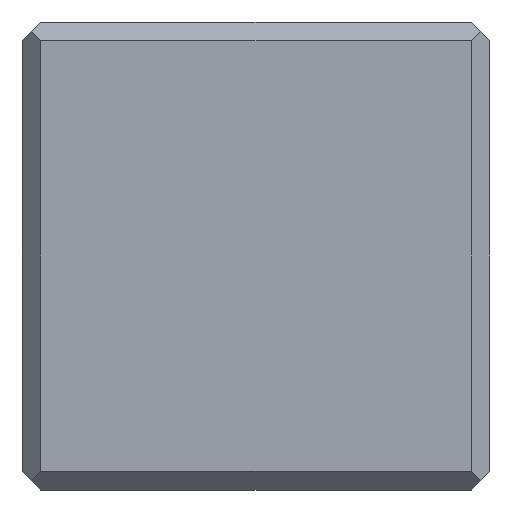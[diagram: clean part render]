
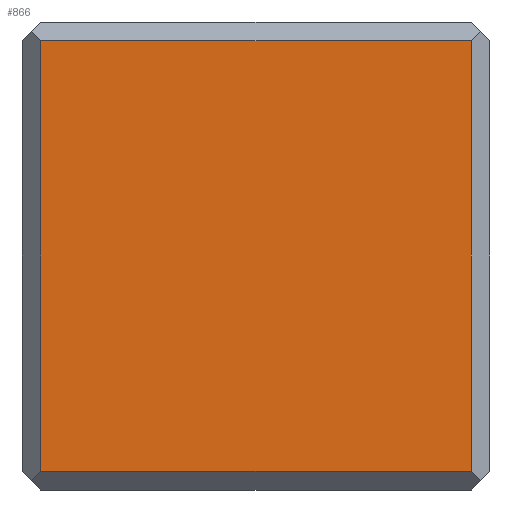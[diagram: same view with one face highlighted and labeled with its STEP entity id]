
A CAD part, front view. The second image highlights one B-rep face of the part: STEP entity #866.
In plain terms, the highlighted planar face has unit normal (0, -1, 0).
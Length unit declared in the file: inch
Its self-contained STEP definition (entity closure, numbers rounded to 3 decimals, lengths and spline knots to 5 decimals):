
#162=DIRECTION('',(-1.,0.,0.));
#163=VECTOR('',#162,0.23);
#164=CARTESIAN_POINT('',(0.115,-0.297,-0.24));
#165=LINE('',#164,#163);
#166=DIRECTION('',(0.,0.,-1.));
#167=VECTOR('',#166,0.23);
#168=CARTESIAN_POINT('',(-0.115,-0.297,-0.01));
#169=LINE('',#168,#167);
#170=DIRECTION('',(1.,0.,0.));
#171=VECTOR('',#170,0.23);
#172=CARTESIAN_POINT('',(-0.115,-0.297,-0.01));
#173=LINE('',#172,#171);
#174=DIRECTION('',(0.,0.,-1.));
#175=VECTOR('',#174,0.23);
#176=CARTESIAN_POINT('',(0.115,-0.297,-0.01));
#177=LINE('',#176,#175);
#674=CARTESIAN_POINT('',(0.115,-0.297,-0.24));
#675=CARTESIAN_POINT('',(-0.115,-0.297,-0.24));
#676=VERTEX_POINT('',#674);
#677=VERTEX_POINT('',#675);
#680=CARTESIAN_POINT('',(-0.115,-0.297,-0.01));
#681=VERTEX_POINT('',#680);
#692=CARTESIAN_POINT('',(0.115,-0.297,-0.01));
#693=VERTEX_POINT('',#692);
#852=CARTESIAN_POINT('',(-0.125,-0.297,0.));
#853=DIRECTION('',(0.,-1.,0.));
#854=DIRECTION('',(1.,0.,0.));
#855=AXIS2_PLACEMENT_3D('',#852,#853,#854);
#856=PLANE('',#855);
#857=ORIENTED_EDGE('',*,*,#839,.T.);
#859=ORIENTED_EDGE('',*,*,#858,.F.);
#861=ORIENTED_EDGE('',*,*,#860,.T.);
#863=ORIENTED_EDGE('',*,*,#862,.T.);
#864=EDGE_LOOP('',(#857,#859,#861,#863));
#865=FACE_OUTER_BOUND('',#864,.F.);
#866=ADVANCED_FACE('',(#865),#856,.T.);
#839=EDGE_CURVE('',#676,#677,#165,.T.);
#858=EDGE_CURVE('',#681,#677,#169,.T.);
#860=EDGE_CURVE('',#681,#693,#173,.T.);
#862=EDGE_CURVE('',#693,#676,#177,.T.);
